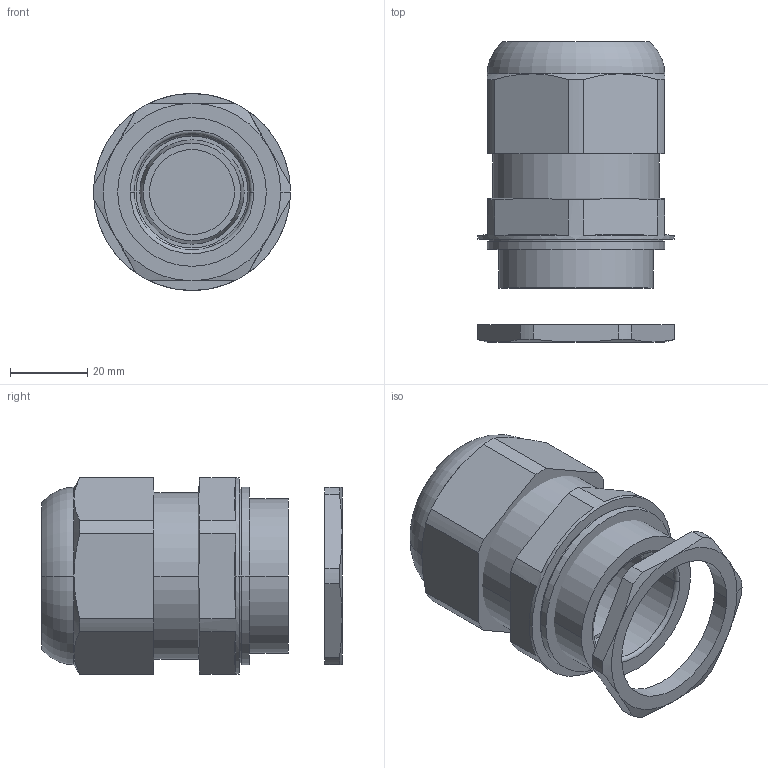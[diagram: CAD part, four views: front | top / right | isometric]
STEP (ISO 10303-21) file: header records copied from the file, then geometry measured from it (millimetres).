
FILE_DESCRIPTION (( 'STEP AP203' ), '1' );
FILE_NAME ('8161-_-M40-28_m_Mutter_m_Stopfen.STEP', '2015-04-02T07:43:49', ( '' ), ( '' ), 'SwSTEP 2.0', 'SolidWorks 2015', '' );
FILE_SCHEMA (( 'CONFIG_CONTROL_DESIGN' ));
Length unit declared in the file: millimetre
Products named in the file (1): 8161-_-M40-28_m_Mutter_m_Stopfen
Bounding box: 51 x 77.77 x 51 mm (x, y, z)
Volume: 64162 mm3; surface area: 40414.5 mm2
Topology: 6 solids, 6 shells, 616 faces, 1600 edges, 999 vertices
Faces by surface type: cone 166, plane 165, cylinder 162, torus 79, bspline 44
Entity records: 19190 total; most frequent: CARTESIAN_POINT 4331, ORIENTED_EDGE 3156, DIRECTION 3119, EDGE_CURVE 1578, AXIS2_PLACEMENT_3D 1205, VERTEX_POINT 999, VECTOR 709, LINE 709
